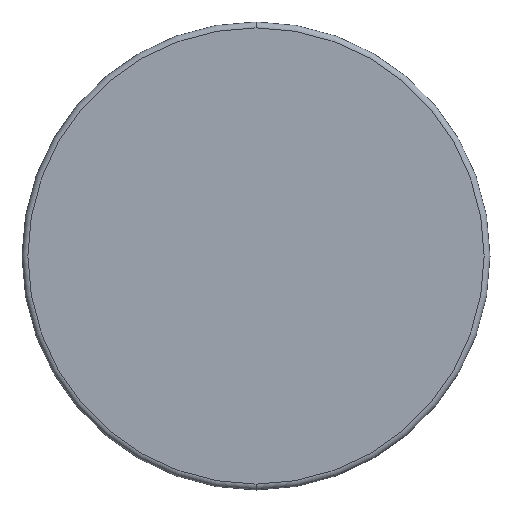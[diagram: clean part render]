
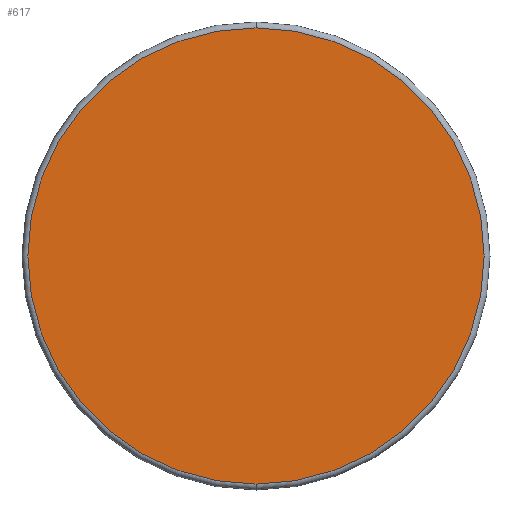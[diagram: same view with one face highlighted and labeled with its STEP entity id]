
A CAD part, front view. The second image highlights one B-rep face of the part: STEP entity #617.
In plain terms, the highlighted planar face has unit normal (0, -1, 0).
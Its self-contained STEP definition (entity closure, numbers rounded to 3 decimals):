
#134 = DIRECTION ( 'NONE',  ( 0., 0., -1. ) ) ;
#152 = CARTESIAN_POINT ( 'NONE',  ( 0., 0., 0. ) ) ;
#169 = VERTEX_POINT ( 'NONE', #254 ) ;
#209 = PLANE ( 'NONE',  #656 ) ;
#218 = DIRECTION ( 'NONE',  ( 0., 1., 0. ) ) ;
#239 = CIRCLE ( 'NONE', #749, 39. ) ;
#254 = CARTESIAN_POINT ( 'NONE',  ( 0., 0., 39. ) ) ;
#331 = DIRECTION ( 'NONE',  ( 0., 0., -1. ) ) ;
#477 = CIRCLE ( 'NONE', #958, 39. ) ;
#501 = ORIENTED_EDGE ( 'NONE', *, *, #539, .T. ) ;
#532 = EDGE_CURVE ( 'NONE', #169, #558, #477, .T. ) ;
#539 = EDGE_CURVE ( 'NONE', #558, #169, #239, .T. ) ;
#558 = VERTEX_POINT ( 'NONE', #927 ) ;
#617 = ADVANCED_FACE ( 'NONE', ( #985 ), #209, .F. ) ;
#656 = AXIS2_PLACEMENT_3D ( 'NONE', #152, #218, #1023 ) ;
#664 = DIRECTION ( 'NONE',  ( 0., -1., 0. ) ) ;
#682 = DIRECTION ( 'NONE',  ( 0., -1., 0. ) ) ;
#737 = CARTESIAN_POINT ( 'NONE',  ( 0., 0., 0. ) ) ;
#749 = AXIS2_PLACEMENT_3D ( 'NONE', #1001, #682, #134 ) ;
#894 = EDGE_LOOP ( 'NONE', ( #501, #1020 ) ) ;
#927 = CARTESIAN_POINT ( 'NONE',  ( 0., 0., -39. ) ) ;
#958 = AXIS2_PLACEMENT_3D ( 'NONE', #737, #664, #331 ) ;
#985 = FACE_OUTER_BOUND ( 'NONE', #894, .T. ) ;
#1001 = CARTESIAN_POINT ( 'NONE',  ( 0., 0., 0. ) ) ;
#1020 = ORIENTED_EDGE ( 'NONE', *, *, #532, .T. ) ;
#1023 = DIRECTION ( 'NONE',  ( 0., 0., 1. ) ) ;
